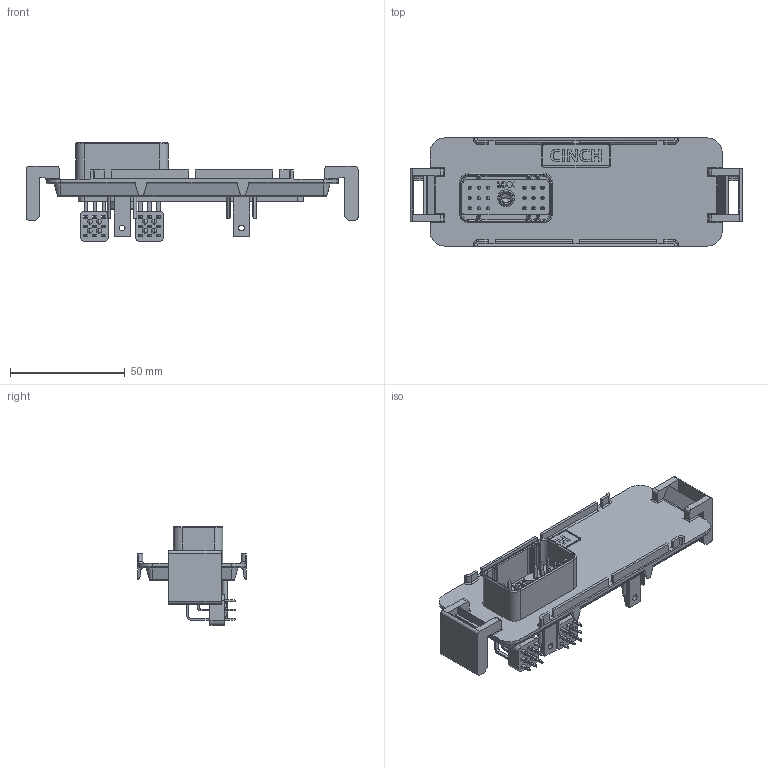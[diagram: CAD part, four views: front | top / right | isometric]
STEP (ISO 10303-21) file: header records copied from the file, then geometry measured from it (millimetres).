
FILE_DESCRIPTION((''),'2;1');
FILE_NAME('5810118033_ASM','2008-07-08T',('eake'),(''),'PRO/ENGINEER BY PARAMETRIC TECHNOLOGY CORPORATION, 2005451','PRO/ENGINEER BY PARAMETRIC TECHNOLOGY CORPORATION, 2005451','');
FILE_SCHEMA(('CONFIG_CONTROL_DESIGN'));
Length unit declared in the file: inch
Products named in the file (9): FOR4828770154; 4624111583HEX; 4630899124; 4040011205_TYPE1; 4040011206_TYPE2; 4040011207_TYPE3; 4741199188; 5810148005_9PIN_EPOXY; 5810118033_ASM
Assembly tree (25 placements, depth 2):
  5810118033_ASM
    FOR4828770154
    4624111583HEX
    4630899124
    4040011205_TYPE1  x6
    4040011206_TYPE2  x6
    4040011207_TYPE3  x6
    4741199188  x2
    5810148005_9PIN_EPOXY  x2
Bounding box: 144.78 x 47.12 x 43.08 mm (x, y, z)
Volume: 33902.2 mm3; surface area: 44359.8 mm2
Topology: 25 solids, 25 shells, 2533 faces, 6964 edges, 4458 vertices
Faces by surface type: plane 1685, cylinder 768, torus 34, sphere 28, cone 10, bspline 8
Entity records: 52126 total; most frequent: CARTESIAN_POINT 11233, ORIENTED_EDGE 8592, DIRECTION 8317, EDGE_CURVE 4296, VECTOR 3153, LINE 3153, VERTEX_POINT 2754, AXIS2_PLACEMENT_3D 2582
